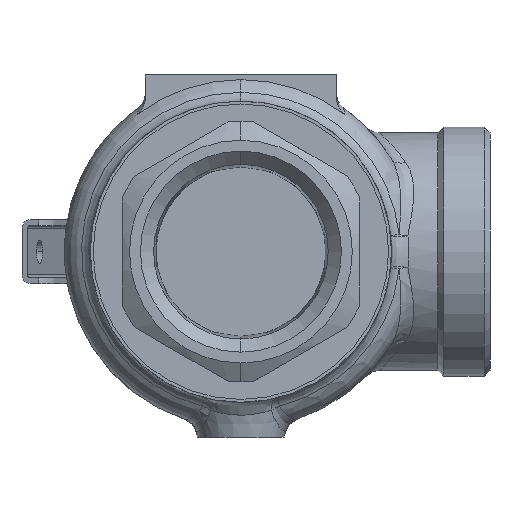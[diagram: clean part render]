
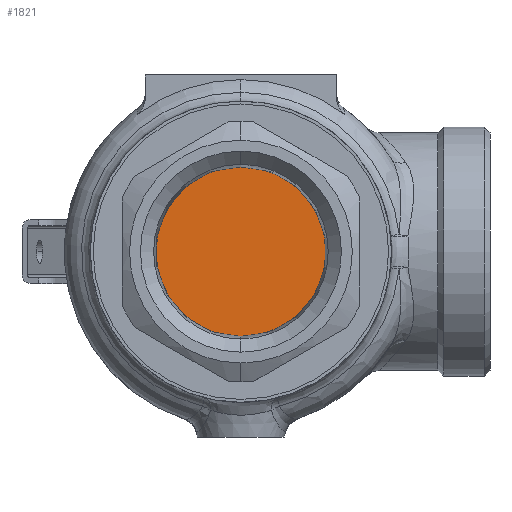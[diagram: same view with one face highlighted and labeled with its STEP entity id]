
A CAD part, front view. The second image highlights one B-rep face of the part: STEP entity #1821.
In plain terms, the highlighted planar face has unit normal (0, -1, 0).
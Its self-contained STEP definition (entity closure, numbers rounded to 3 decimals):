
#369 = DIRECTION ( 'NONE',  ( 0., 0., 1. ) ) ;
#404 = CARTESIAN_POINT ( 'NONE',  ( 0., -35., 0. ) ) ;
#475 = FACE_OUTER_BOUND ( 'NONE', #2040, .T. ) ;
#1204 = CIRCLE ( 'NONE', #1799, 14.63 ) ;
#1542 = AXIS2_PLACEMENT_3D ( 'NONE', #3879, #7256, #369 ) ;
#1799 = AXIS2_PLACEMENT_3D ( 'NONE', #6807, #2314, #2918 ) ;
#1821 = ADVANCED_FACE ( 'NONE', ( #475 ), #4985, .F. ) ;
#2040 = EDGE_LOOP ( 'NONE', ( #2238, #6899 ) ) ;
#2238 = ORIENTED_EDGE ( 'NONE', *, *, #3090, .F. ) ;
#2314 = DIRECTION ( 'NONE',  ( 0., 1., 0. ) ) ;
#2655 = DIRECTION ( 'NONE',  ( 0., 1., 0. ) ) ;
#2691 = DIRECTION ( 'NONE',  ( 0., 0., 1. ) ) ;
#2918 = DIRECTION ( 'NONE',  ( 0., 0., 1. ) ) ;
#3090 = EDGE_CURVE ( 'NONE', #3158, #3997, #1204, .T. ) ;
#3158 = VERTEX_POINT ( 'NONE', #4693 ) ;
#3879 = CARTESIAN_POINT ( 'NONE',  ( -14.63, -35., 0. ) ) ;
#3997 = VERTEX_POINT ( 'NONE', #7025 ) ;
#4693 = CARTESIAN_POINT ( 'NONE',  ( 0., -35., -14.63 ) ) ;
#4985 = PLANE ( 'NONE',  #1542 ) ;
#5064 = EDGE_CURVE ( 'NONE', #3997, #3158, #5128, .T. ) ;
#5128 = CIRCLE ( 'NONE', #5491, 14.63 ) ;
#5491 = AXIS2_PLACEMENT_3D ( 'NONE', #404, #2655, #2691 ) ;
#6807 = CARTESIAN_POINT ( 'NONE',  ( 0., -35., 0. ) ) ;
#6899 = ORIENTED_EDGE ( 'NONE', *, *, #5064, .F. ) ;
#7025 = CARTESIAN_POINT ( 'NONE',  ( 0., -35., 14.63 ) ) ;
#7256 = DIRECTION ( 'NONE',  ( 0., 1., 0. ) ) ;
